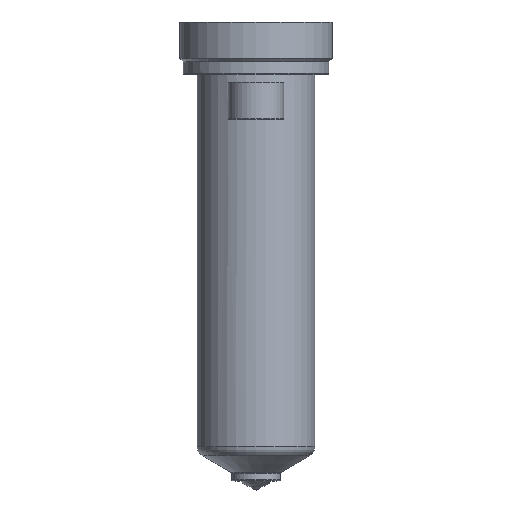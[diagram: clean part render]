
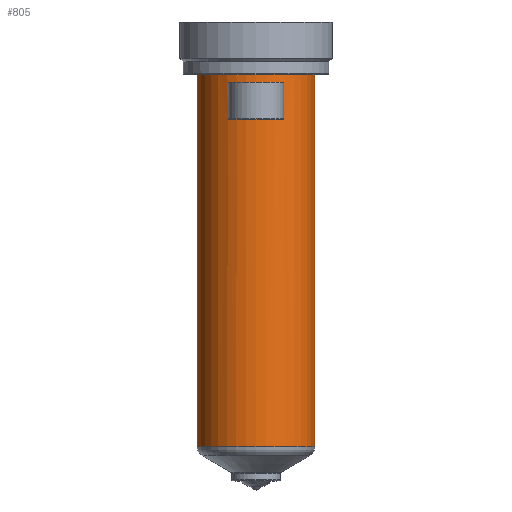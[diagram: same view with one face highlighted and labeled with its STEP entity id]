
A CAD part, top view. The second image highlights one B-rep face of the part: STEP entity #805.
In plain terms, the highlighted cylindrical face has radius 17 mm (diameter 34 mm), a partial arc.
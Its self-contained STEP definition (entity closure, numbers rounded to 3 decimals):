
#191=DIRECTION('',(0.,-1.,0.));
#192=VECTOR('',#191,107.506);
#193=CARTESIAN_POINT('',(17.,0.,0.));
#194=LINE('',#193,#192);
#195=CARTESIAN_POINT('',(0.,-107.506,0.));
#196=DIRECTION('',(0.,1.,0.));
#197=DIRECTION('',(-1.,0.,0.));
#198=AXIS2_PLACEMENT_3D('',#195,#196,#197);
#200=DIRECTION('',(0.,1.,0.));
#201=VECTOR('',#200,107.506);
#202=CARTESIAN_POINT('',(-17.,-107.506,0.));
#203=LINE('',#202,#201);
#204=CARTESIAN_POINT('',(0.,0.,0.));
#205=DIRECTION('',(0.,1.,0.));
#206=DIRECTION('',(-1.,0.,0.));
#207=AXIS2_PLACEMENT_3D('',#204,#205,#206);
#371=DIRECTION('',(0.,1.,0.));
#372=VECTOR('',#371,10.5);
#373=CARTESIAN_POINT('',(-8.,-13.,15.));
#374=LINE('',#373,#372);
#375=CARTESIAN_POINT('',(0.,-13.,0.));
#376=DIRECTION('',(0.,1.,0.));
#377=DIRECTION('',(-0.471,0.,0.882));
#378=AXIS2_PLACEMENT_3D('',#375,#376,#377);
#401=CARTESIAN_POINT('',(0.,-2.5,0.));
#402=DIRECTION('',(0.,-1.,0.));
#403=DIRECTION('',(0.471,0.,0.882));
#404=AXIS2_PLACEMENT_3D('',#401,#402,#403);
#419=DIRECTION('',(0.,1.,0.));
#420=VECTOR('',#419,10.5);
#421=CARTESIAN_POINT('',(8.,-13.,15.));
#422=LINE('',#421,#420);
#480=CARTESIAN_POINT('',(-17.,0.,0.));
#481=CARTESIAN_POINT('',(17.,0.,0.));
#482=VERTEX_POINT('',#480);
#483=VERTEX_POINT('',#481);
#492=CARTESIAN_POINT('',(-8.,-2.5,15.));
#493=VERTEX_POINT('',#492);
#494=CARTESIAN_POINT('',(8.,-2.5,15.));
#495=VERTEX_POINT('',#494);
#532=CARTESIAN_POINT('',(17.,-107.506,0.));
#533=VERTEX_POINT('',#532);
#542=CARTESIAN_POINT('',(-17.,-107.506,0.));
#543=VERTEX_POINT('',#542);
#564=CARTESIAN_POINT('',(-8.,-13.,15.));
#565=CARTESIAN_POINT('',(8.,-13.,15.));
#566=VERTEX_POINT('',#564);
#567=VERTEX_POINT('',#565);
#783=CARTESIAN_POINT('',(0.,16.4,0.));
#784=DIRECTION('',(0.,-1.,0.));
#785=DIRECTION('',(-1.,0.,0.));
#786=AXIS2_PLACEMENT_3D('',#783,#784,#785);
#787=CYLINDRICAL_SURFACE('',#786,17.);
#788=ORIENTED_EDGE('',*,*,#777,.T.);
#790=ORIENTED_EDGE('',*,*,#789,.F.);
#791=ORIENTED_EDGE('',*,*,#773,.T.);
#792=ORIENTED_EDGE('',*,*,#763,.T.);
#793=EDGE_LOOP('',(#788,#790,#791,#792));
#794=FACE_OUTER_BOUND('',#793,.F.);
#796=ORIENTED_EDGE('',*,*,#795,.F.);
#798=ORIENTED_EDGE('',*,*,#797,.T.);
#800=ORIENTED_EDGE('',*,*,#799,.T.);
#802=ORIENTED_EDGE('',*,*,#801,.T.);
#803=EDGE_LOOP('',(#796,#798,#800,#802));
#804=FACE_BOUND('',#803,.F.);
#805=ADVANCED_FACE('',(#794,#804),#787,.T.);
#199=CIRCLE('',#198,17.);
#208=CIRCLE('',#207,17.);
#379=CIRCLE('',#378,17.);
#405=CIRCLE('',#404,17.);
#763=EDGE_CURVE('',#482,#483,#208,.T.);
#773=EDGE_CURVE('',#543,#482,#203,.T.);
#777=EDGE_CURVE('',#483,#533,#194,.T.);
#789=EDGE_CURVE('',#543,#533,#199,.T.);
#795=EDGE_CURVE('',#566,#493,#374,.T.);
#797=EDGE_CURVE('',#566,#567,#379,.T.);
#799=EDGE_CURVE('',#567,#495,#422,.T.);
#801=EDGE_CURVE('',#495,#493,#405,.T.);
